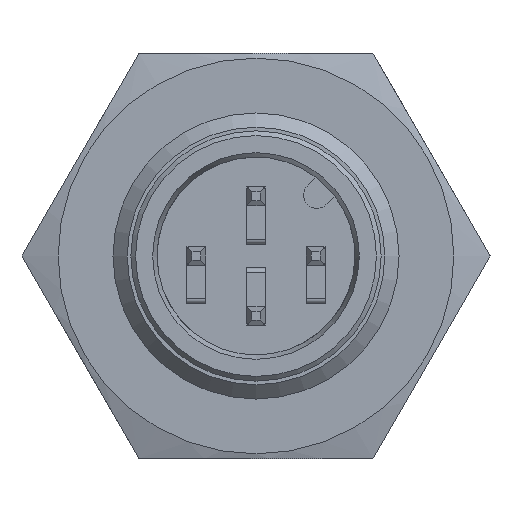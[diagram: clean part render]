
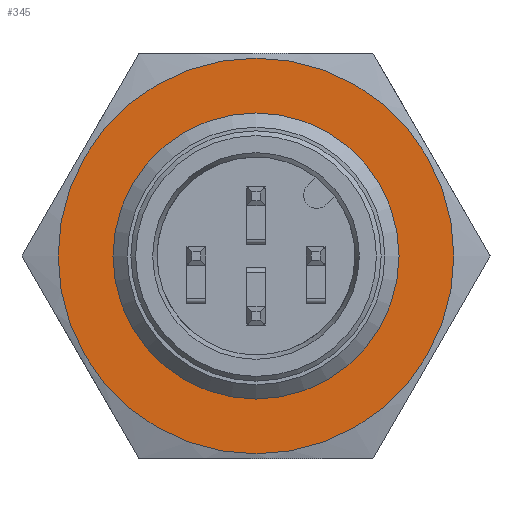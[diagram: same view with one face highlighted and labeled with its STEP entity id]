
A CAD part, left-side view. The second image highlights one B-rep face of the part: STEP entity #345.
In plain terms, the highlighted planar face has unit normal (-1, 0, 0) as drawn and (0, -1, 0) by its records, which use the part's own axes.
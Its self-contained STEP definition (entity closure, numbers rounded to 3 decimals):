
#345 = ADVANCED_FACE( '', ( #698, #699 ), #700, .F. );
#698 = FACE_BOUND( '', #1067, .T. );
#699 = FACE_OUTER_BOUND( '', #1068, .T. );
#700 = PLANE( '', #1069 );
#1067 = EDGE_LOOP( '', ( #1875 ) );
#1068 = EDGE_LOOP( '', ( #1876 ) );
#1069 = AXIS2_PLACEMENT_3D( '', #1877, #1878, #1879 );
#1875 = ORIENTED_EDGE( '', *, *, #2466, .F. );
#1876 = ORIENTED_EDGE( '', *, *, #2467, .T. );
#1877 = CARTESIAN_POINT( '', ( 8.5, 0., 14.722 ) );
#1878 = DIRECTION( '', ( 0., 1., 0. ) );
#1879 = DIRECTION( '', ( 0., 0., 1. ) );
#2466 = EDGE_CURVE( '', #3018, #3018, #3019, .T. );
#2467 = EDGE_CURVE( '', #3020, #3020, #3021, .T. );
#3018 = VERTEX_POINT( '', #3783 );
#3019 = CIRCLE( '', #3784, 5.459 );
#3020 = VERTEX_POINT( '', #3785 );
#3021 = CIRCLE( '', #3786, 8.3 );
#3783 = CARTESIAN_POINT( '', ( 5.459, 0., 0. ) );
#3784 = AXIS2_PLACEMENT_3D( '', #4255, #4256, #4257 );
#3785 = CARTESIAN_POINT( '', ( 8.3, 0., 0. ) );
#3786 = AXIS2_PLACEMENT_3D( '', #4258, #4259, #4260 );
#4255 = CARTESIAN_POINT( '', ( 0., 0., 0. ) );
#4256 = DIRECTION( '', ( 0., -1., 0. ) );
#4257 = DIRECTION( '', ( 1., 0., 0. ) );
#4258 = CARTESIAN_POINT( '', ( 0., 0., 0. ) );
#4259 = DIRECTION( '', ( 0., -1., 0. ) );
#4260 = DIRECTION( '', ( 1., 0., 0. ) );
